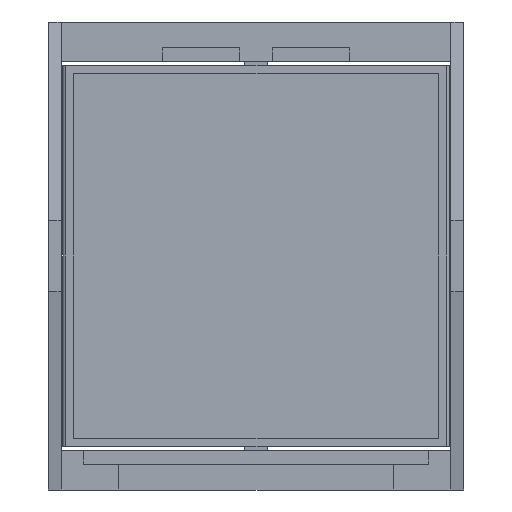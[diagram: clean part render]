
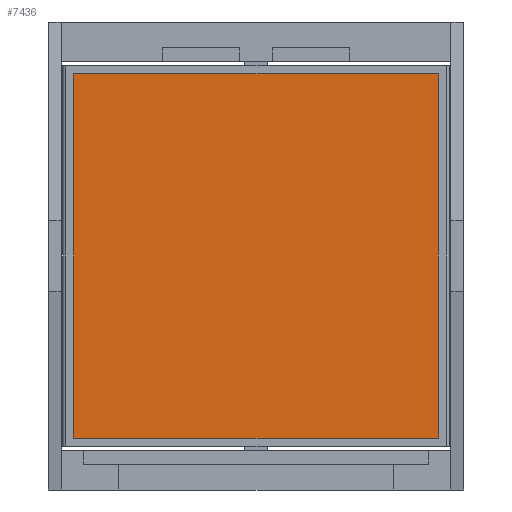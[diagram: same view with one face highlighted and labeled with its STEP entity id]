
A CAD part, front view. The second image highlights one B-rep face of the part: STEP entity #7436.
In plain terms, the highlighted planar face has unit normal (0, -1, 0).
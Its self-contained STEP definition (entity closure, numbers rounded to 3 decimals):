
#99 = CARTESIAN_POINT ( 'NONE',  ( 16.5, -0.127, -16.5 ) ) ;
#197 = CARTESIAN_POINT ( 'NONE',  ( -16.5, -0.127, 16.5 ) ) ;
#298 = CARTESIAN_POINT ( 'NONE',  ( -16.5, -0.127, -16.5 ) ) ;
#373 = CARTESIAN_POINT ( 'NONE',  ( -16.5, -0.127, -16.5 ) ) ;
#397 = LINE ( 'NONE', #298, #9044 ) ;
#638 = VERTEX_POINT ( 'NONE', #373 ) ;
#771 = DIRECTION ( 'NONE',  ( -1., 0., 0. ) ) ;
#1155 = EDGE_CURVE ( 'NONE', #6591, #2985, #8178, .T. ) ;
#2019 = ORIENTED_EDGE ( 'NONE', *, *, #2159, .F. ) ;
#2159 = EDGE_CURVE ( 'NONE', #2985, #638, #7403, .T. ) ;
#2241 = FACE_OUTER_BOUND ( 'NONE', #9613, .T. ) ;
#2596 = CARTESIAN_POINT ( 'NONE',  ( 16.5, -0.127, 16.5 ) ) ;
#2865 = DIRECTION ( 'NONE',  ( 0., 0., -1. ) ) ;
#2985 = VERTEX_POINT ( 'NONE', #99 ) ;
#3680 = CARTESIAN_POINT ( 'NONE',  ( -16.5, -0.127, 16.5 ) ) ;
#3974 = DIRECTION ( 'NONE',  ( 0., 0., 1. ) ) ;
#4123 = DIRECTION ( 'NONE',  ( 0., 0., 1. ) ) ;
#4565 = DIRECTION ( 'NONE',  ( 0., 1., 0. ) ) ;
#4590 = ORIENTED_EDGE ( 'NONE', *, *, #9218, .F. ) ;
#5366 = CARTESIAN_POINT ( 'NONE',  ( -16.5, -0.127, -16.5 ) ) ;
#5812 = VECTOR ( 'NONE', #8708, 1000. ) ;
#5964 = VECTOR ( 'NONE', #771, 1000. ) ;
#6591 = VERTEX_POINT ( 'NONE', #2596 ) ;
#6709 = VECTOR ( 'NONE', #2865, 1000. ) ;
#6715 = ORIENTED_EDGE ( 'NONE', *, *, #1155, .F. ) ;
#7279 = LINE ( 'NONE', #7755, #5812 ) ;
#7398 = AXIS2_PLACEMENT_3D ( 'NONE', #197, #4565, #3974 ) ;
#7403 = LINE ( 'NONE', #5366, #5964 ) ;
#7436 = ADVANCED_FACE ( 'NONE', ( #2241 ), #8189, .F. ) ;
#7437 = CARTESIAN_POINT ( 'NONE',  ( 16.5, -0.127, -16.5 ) ) ;
#7755 = CARTESIAN_POINT ( 'NONE',  ( -16.5, -0.127, 16.5 ) ) ;
#7956 = VERTEX_POINT ( 'NONE', #3680 ) ;
#8178 = LINE ( 'NONE', #7437, #6709 ) ;
#8189 = PLANE ( 'NONE',  #7398 ) ;
#8708 = DIRECTION ( 'NONE',  ( 1., 0., 0. ) ) ;
#8733 = EDGE_CURVE ( 'NONE', #7956, #6591, #7279, .T. ) ;
#9044 = VECTOR ( 'NONE', #4123, 1000. ) ;
#9116 = ORIENTED_EDGE ( 'NONE', *, *, #8733, .F. ) ;
#9218 = EDGE_CURVE ( 'NONE', #638, #7956, #397, .T. ) ;
#9613 = EDGE_LOOP ( 'NONE', ( #4590, #2019, #6715, #9116 ) ) ;
